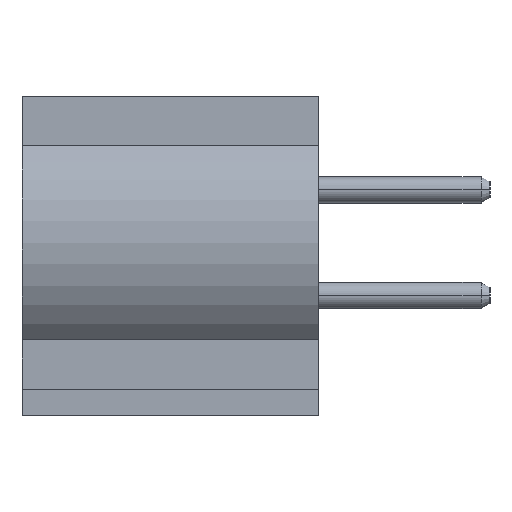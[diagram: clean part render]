
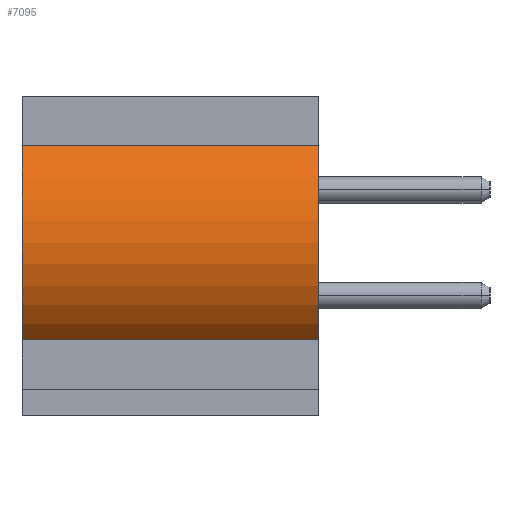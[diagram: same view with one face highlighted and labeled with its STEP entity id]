
A CAD part, left-side view. The second image highlights one B-rep face of the part: STEP entity #7095.
In plain terms, the highlighted cylindrical face has radius 2.5 mm (diameter 5 mm), a partial arc.
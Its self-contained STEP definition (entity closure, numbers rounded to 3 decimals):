
#78=CARTESIAN_POINT('',(-12.5,3.4,0.));
#79=DIRECTION('',(0.,-1.,0.));
#80=DIRECTION('',(-0.68,0.,0.733));
#81=AXIS2_PLACEMENT_3D('',#78,#79,#80);
#564=CARTESIAN_POINT('',(-12.5,-2.2,0.));
#565=DIRECTION('',(0.,-1.,0.));
#566=DIRECTION('',(-0.68,0.,0.733));
#567=AXIS2_PLACEMENT_3D('',#564,#565,#566);
#3513=DIRECTION('',(0.,-1.,0.));
#3514=VECTOR('',#3513,5.6);
#3515=CARTESIAN_POINT('',(-14.2,3.4,1.833));
#3516=LINE('',#3515,#3514);
#3520=DIRECTION('',(0.,-1.,0.));
#3521=VECTOR('',#3520,5.6);
#3522=CARTESIAN_POINT('',(-14.2,3.4,-1.833));
#3523=LINE('',#3522,#3521);
#4037=CARTESIAN_POINT('',(-14.2,3.4,1.833));
#4039=VERTEX_POINT('',#4037);
#4040=CARTESIAN_POINT('',(-14.2,3.4,-1.833));
#4041=VERTEX_POINT('',#4040);
#4046=CARTESIAN_POINT('',(-14.2,-2.2,1.833));
#4047=VERTEX_POINT('',#4046);
#4048=CARTESIAN_POINT('',(-14.2,-2.2,-1.833));
#4049=VERTEX_POINT('',#4048);
#7083=CARTESIAN_POINT('',(-12.5,3.4,0.));
#7084=DIRECTION('',(0.,-1.,0.));
#7085=DIRECTION('',(-1.,0.,0.));
#7086=AXIS2_PLACEMENT_3D('',#7083,#7084,#7085);
#7087=CYLINDRICAL_SURFACE('',#7086,2.5);
#7088=ORIENTED_EDGE('',*,*,#4161,.F.);
#7089=ORIENTED_EDGE('',*,*,#7078,.T.);
#7090=ORIENTED_EDGE('',*,*,#4483,.T.);
#7092=ORIENTED_EDGE('',*,*,#7091,.F.);
#7093=EDGE_LOOP('',(#7088,#7089,#7090,#7092));
#7094=FACE_OUTER_BOUND('',#7093,.F.);
#82=CIRCLE('',#81,2.5);
#568=CIRCLE('',#567,2.5);
#4161=EDGE_CURVE('',#4039,#4041,#82,.T.);
#4483=EDGE_CURVE('',#4047,#4049,#568,.T.);
#7078=EDGE_CURVE('',#4039,#4047,#3516,.T.);
#7091=EDGE_CURVE('',#4041,#4049,#3523,.T.);
#7095=ADVANCED_FACE('',(#7094),#7087,.T.);
